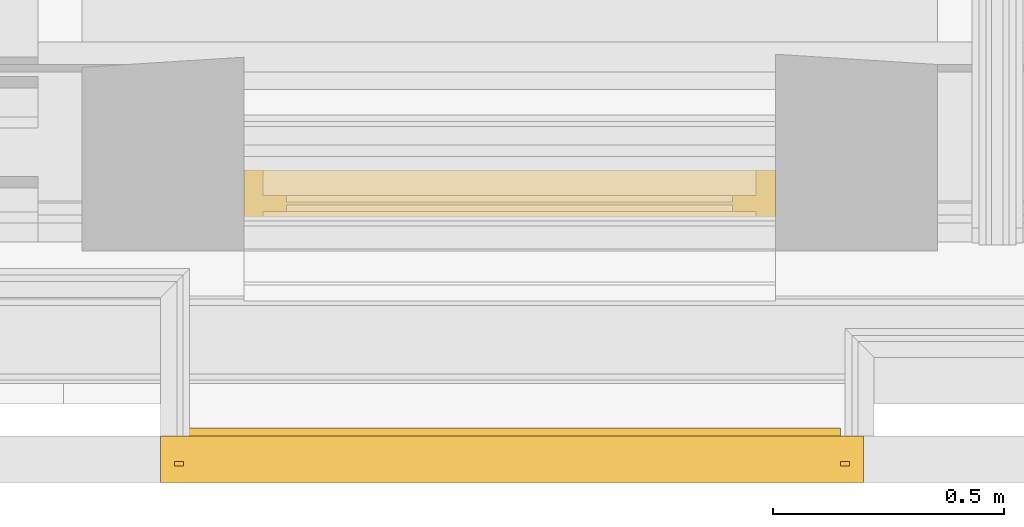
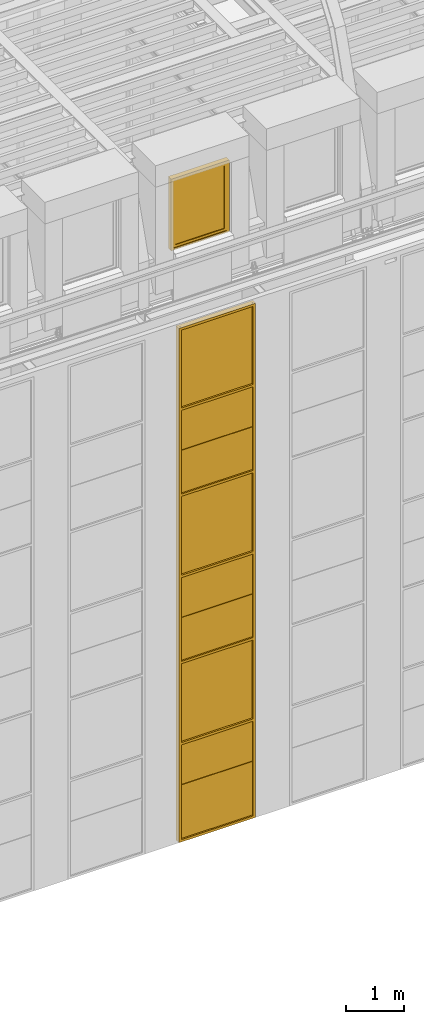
# One storey, part 114 of 183: 1 curtain wall, 1 window.
"""IFC2X3 building model written with IfcOpenShell, lengths in metres."""

from ifc_helpers import new_model, entity, si_unit, converted_unit, derived_unit, money_unit, direction, frame, origin_with_axes, place, context, subcontext, project, spatial, faceted_brep, material, type_object, element, save


model = new_model("IFC2X3")

# Units and contexts
model_context = context("Model", 3, precision=1e-05, world=origin_with_axes(), true_north=direction((0.0, 1.0)))
body_context = subcontext(model_context, "Body", "Model", "MODEL_VIEW", scale=1.0)
ifc_project = project(units=[si_unit("LENGTHUNIT", "METRE"), si_unit("AREAUNIT", "SQUARE_METRE"), si_unit("VOLUMEUNIT", "CUBIC_METRE"), si_unit("ABSORBEDDOSEUNIT", "GRAY"), si_unit("AMOUNTOFSUBSTANCEUNIT", "MOLE"), si_unit("DOSEEQUIVALENTUNIT", "SIEVERT"), si_unit("ELECTRICCAPACITANCEUNIT", "FARAD"), si_unit("ELECTRICCHARGEUNIT", "COULOMB"), si_unit("ELECTRICCONDUCTANCEUNIT", "SIEMENS"), si_unit("ELECTRICCURRENTUNIT", "AMPERE"), si_unit("ELECTRICRESISTANCEUNIT", "OHM"), si_unit("ELECTRICVOLTAGEUNIT", "VOLT"), si_unit("ENERGYUNIT", "JOULE"), si_unit("FORCEUNIT", "NEWTON"), si_unit("FREQUENCYUNIT", "HERTZ"), si_unit("ILLUMINANCEUNIT", "LUX"), si_unit("INDUCTANCEUNIT", "HENRY"), si_unit("LUMINOUSFLUXUNIT", "LUMEN"), si_unit("LUMINOUSINTENSITYUNIT", "CANDELA"), si_unit("MAGNETICFLUXDENSITYUNIT", "TESLA"), si_unit("MAGNETICFLUXUNIT", "WEBER"), si_unit("MASSUNIT", "GRAM"), converted_unit("PLANEANGLEUNIT", "degree", entity("IfcReal", 0.0174532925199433), si_unit("PLANEANGLEUNIT", "RADIAN"), dimensions=[0, 0, 0, 0, 0, 0, 0]), si_unit("POWERUNIT", "WATT"), si_unit("PRESSUREUNIT", "PASCAL"), si_unit("RADIOACTIVITYUNIT", "BECQUEREL"), si_unit("SOLIDANGLEUNIT", "STERADIAN"), si_unit("THERMODYNAMICTEMPERATUREUNIT", "KELVIN"), si_unit("TIMEUNIT", "SECOND"), derived_unit("ACCELERATIONUNIT", [(si_unit("LENGTHUNIT", "METRE"), 1), (si_unit("TIMEUNIT", "SECOND"), -2)]), derived_unit("ANGULARVELOCITYUNIT", [(converted_unit("PLANEANGLEUNIT", "degree", entity("IfcReal", 0.0174532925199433), si_unit("PLANEANGLEUNIT", "RADIAN"), dimensions=[0, 0, 0, 0, 0, 0, 0]), 1), (si_unit("TIMEUNIT", "SECOND"), -1)]), derived_unit("CURVATUREUNIT", [(converted_unit("PLANEANGLEUNIT", "degree", entity("IfcReal", 0.0174532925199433), si_unit("PLANEANGLEUNIT", "RADIAN"), dimensions=[0, 0, 0, 0, 0, 0, 0]), 1), (si_unit("LENGTHUNIT", "METRE"), -1)]), derived_unit("DYNAMICVISCOSITYUNIT", [(si_unit("PRESSUREUNIT", "PASCAL"), 1), (si_unit("TIMEUNIT", "SECOND"), 1)]), derived_unit("HEATFLUXDENSITYUNIT", [(si_unit("POWERUNIT", "WATT"), 1), (si_unit("LENGTHUNIT", "METRE"), -2)]), derived_unit("HEATINGVALUEUNIT", [(si_unit("ENERGYUNIT", "JOULE"), 1), (si_unit("MASSUNIT", "GRAM"), -1)]), derived_unit("INTEGERCOUNTRATEUNIT", [(si_unit("TIMEUNIT", "SECOND"), -1)]), derived_unit("IONCONCENTRATIONUNIT", [(si_unit("MASSUNIT", "GRAM"), 1), (si_unit("VOLUMEUNIT", "CUBIC_METRE"), -1)]), derived_unit("ISOTHERMALMOISTURECAPACITYUNIT", [(si_unit("VOLUMEUNIT", "CUBIC_METRE"), 1), (si_unit("MASSUNIT", "GRAM"), -1)]), derived_unit("KINEMATICVISCOSITYUNIT", [(si_unit("AREAUNIT", "SQUARE_METRE"), 1), (si_unit("TIMEUNIT", "SECOND"), -1)]), derived_unit("LINEARFORCEUNIT", [(si_unit("FORCEUNIT", "NEWTON"), 1), (si_unit("LENGTHUNIT", "METRE"), -1)]), derived_unit("LINEARMOMENTUNIT", [(si_unit("FORCEUNIT", "NEWTON"), 1), (si_unit("LENGTHUNIT", "METRE"), -1)]), derived_unit("LINEARSTIFFNESSUNIT", [(si_unit("FORCEUNIT", "NEWTON"), 1), (si_unit("LENGTHUNIT", "METRE"), -1)]), derived_unit("LINEARVELOCITYUNIT", [(si_unit("LENGTHUNIT", "METRE"), 1), (si_unit("TIMEUNIT", "SECOND"), -1)]), derived_unit("LUMINOUSINTENSITYDISTRIBUTIONUNIT", [(si_unit("LUMINOUSINTENSITYUNIT", "CANDELA"), 1), (si_unit("LUMINOUSFLUXUNIT", "LUMEN"), -1)]), derived_unit("MASSDENSITYUNIT", [(si_unit("MASSUNIT", "GRAM"), 1), (si_unit("VOLUMEUNIT", "CUBIC_METRE"), -1)]), derived_unit("MASSFLOWRATEUNIT", [(si_unit("MASSUNIT", "GRAM"), 1), (si_unit("TIMEUNIT", "SECOND"), -1)]), derived_unit("MASSPERLENGTHUNIT", [(si_unit("MASSUNIT", "GRAM"), 1), (si_unit("LENGTHUNIT", "METRE"), -1)]), derived_unit("MODULUSOFELASTICITYUNIT", [(si_unit("FORCEUNIT", "NEWTON"), 1), (si_unit("AREAUNIT", "SQUARE_METRE"), -1)]), derived_unit("MODULUSOFLINEARSUBGRADEREACTIONUNIT", [(si_unit("FORCEUNIT", "NEWTON"), 1), (si_unit("LENGTHUNIT", "METRE"), -2)]), derived_unit("MODULUSOFROTATIONALSUBGRADEREACTIONUNIT", [(si_unit("FORCEUNIT", "NEWTON"), 1), (si_unit("LENGTHUNIT", "METRE"), 1)]), derived_unit("MODULUSOFSUBGRADEREACTIONUNIT", [(si_unit("FORCEUNIT", "NEWTON"), 1), (si_unit("VOLUMEUNIT", "CUBIC_METRE"), -1)]), derived_unit("MOISTUREDIFFUSIVITYUNIT", [(si_unit("VOLUMEUNIT", "CUBIC_METRE"), 1), (si_unit("TIMEUNIT", "SECOND"), -1)]), derived_unit("MOLECULARWEIGHTUNIT", [(si_unit("MASSUNIT", "GRAM"), 1), (si_unit("AMOUNTOFSUBSTANCEUNIT", "MOLE"), -1)]), derived_unit("PLANARFORCEUNIT", [(si_unit("FORCEUNIT", "NEWTON"), 1), (si_unit("LENGTHUNIT", "METRE"), -2)]), derived_unit("ROTATIONALFREQUENCYUNIT", [(si_unit("TIMEUNIT", "SECOND"), -1)]), derived_unit("ROTATIONALMASSUNIT", [(si_unit("MASSUNIT", "GRAM"), 1), (si_unit("LENGTHUNIT", "METRE"), 2)]), derived_unit("ROTATIONALSTIFFNESSUNIT", [(si_unit("FORCEUNIT", "NEWTON"), 1), (si_unit("LENGTHUNIT", "METRE"), 1), (converted_unit("PLANEANGLEUNIT", "degree", entity("IfcReal", 0.0174532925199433), si_unit("PLANEANGLEUNIT", "RADIAN"), dimensions=[0, 0, 0, 0, 0, 0, 0]), -1)]), derived_unit("SECTIONAREAINTEGRALUNIT", [(si_unit("LENGTHUNIT", "METRE"), 5)]), derived_unit("SECTIONMODULUSUNIT", [(si_unit("LENGTHUNIT", "METRE"), 3)]), derived_unit("SHEARMODULUSUNIT", [(si_unit("FORCEUNIT", "NEWTON"), 1), (si_unit("AREAUNIT", "SQUARE_METRE"), -1)]), derived_unit("SOUNDPOWERUNIT", [(si_unit("ENERGYUNIT", "JOULE"), 1), (si_unit("TIMEUNIT", "SECOND"), -1)]), derived_unit("SPECIFICHEATCAPACITYUNIT", [(si_unit("FORCEUNIT", "NEWTON"), 1), (si_unit("MASSUNIT", "GRAM"), -1), (si_unit("THERMODYNAMICTEMPERATUREUNIT", "KELVIN"), -1)]), derived_unit("TEMPERATUREGRADIENTUNIT", [(si_unit("THERMODYNAMICTEMPERATUREUNIT", "KELVIN"), 1), (si_unit("LENGTHUNIT", "METRE"), -1)]), derived_unit("THERMALADMITTANCEUNIT", [(si_unit("POWERUNIT", "WATT"), 1), (si_unit("AREAUNIT", "SQUARE_METRE"), -1), (si_unit("THERMODYNAMICTEMPERATUREUNIT", "KELVIN"), -1)]), derived_unit("THERMALCONDUCTANCEUNIT", [(si_unit("POWERUNIT", "WATT"), 1), (si_unit("LENGTHUNIT", "METRE"), -1), (si_unit("THERMODYNAMICTEMPERATUREUNIT", "KELVIN"), -1)]), derived_unit("THERMALEXPANSIONCOEFFICIENTUNIT", [(si_unit("THERMODYNAMICTEMPERATUREUNIT", "KELVIN"), -1)]), derived_unit("THERMALRESISTANCEUNIT", [(si_unit("AREAUNIT", "SQUARE_METRE"), 1), (si_unit("POWERUNIT", "WATT"), -1)]), derived_unit("THERMALTRANSMITTANCEUNIT", [(si_unit("POWERUNIT", "WATT"), 1), (si_unit("AREAUNIT", "SQUARE_METRE"), -1), (si_unit("THERMODYNAMICTEMPERATUREUNIT", "KELVIN"), -1)]), derived_unit("TORQUEUNIT", [(si_unit("FORCEUNIT", "NEWTON"), 1), (si_unit("LENGTHUNIT", "METRE"), 1)]), derived_unit("VAPORPERMEABILITYUNIT", [(si_unit("MASSUNIT", "GRAM"), 1), (si_unit("TIMEUNIT", "SECOND"), -1)]), derived_unit("VOLUMETRICFLOWRATEUNIT", [(si_unit("VOLUMEUNIT", "CUBIC_METRE"), 1), (si_unit("TIMEUNIT", "SECOND"), -1)]), derived_unit("WARPINGCONSTANTUNIT", [(si_unit("LENGTHUNIT", "METRE"), 6)]), derived_unit("WARPINGMOMENTUNIT", [(si_unit("FORCEUNIT", "NEWTON"), 1), (si_unit("LENGTHUNIT", "METRE"), 2)]), money_unit("GBP")], contexts=[model_context])

# Site, building, storey
site_placement = place(None, origin_with_axes())
site = spatial("IfcSite", under=ifc_project, at=site_placement, Name="Site", CompositionType="ELEMENT")
building_placement = place(site_placement, origin_with_axes())
building = spatial("IfcBuilding", under=site, at=building_placement, Name="Building01", CompositionType="ELEMENT")
storey_placement = place(building_placement, frame((0.0, 0.0, 5.15), z_axis=(0.0, 0.0, 1.0), x_axis=(1.0, 0.0, 0.0)))
storey = spatial("IfcBuildingStorey", under=building, at=storey_placement, Name="1F", CompositionType="ELEMENT", Elevation=5.15)

# Curtain wall
ifc_material_1 = material(Name="A-CurtainWall_Frame")
curtain_wall_type = type_object("IfcCurtainWallType", Name="Pattern - Maximum Spacing", PredefinedType="NOTDEFINED")
curtain_wall_placement = place(storey_placement, frame((0.0, 0.0, -5.15), z_axis=(0.0, 0.0, 1.0), x_axis=(1.0, 0.0, 0.0)))
element("IfcCurtainWall", 1, at=curtain_wall_placement, inside=storey, type_object=curtain_wall_type, material=ifc_material_1, Name="20", ObjectType="Pattern - Maximum Spacing", context=body_context, shape_type="Brep", body=[
    faceted_brep([(9.49, 0.05, 4.0), (9.49, 0.03, 4.0), (9.49, 0.03, 5.118945), (9.49, 0.05, 5.118945), (10.95, 0.05, 4.0), (10.95, 0.03, 4.0), (10.95, 0.05, 5.118945), (10.95, 0.03, 5.118945)], [[[0, 1, 2, 3]], [[4, 5, 1, 0]], [[6, 7, 5, 4]], [[3, 2, 7, 6]], [[1, 5, 7, 2]], [[3, 6, 4, 0]]]),
    faceted_brep([(9.51, 0.045, 3.97), (9.49, 0.045, 3.97), (9.49, 0.035, 3.97), (9.51, 0.035, 3.97), (9.51, 0.0, 3.97), (9.46, 0.0, 3.97), (9.46, 0.1, 3.97), (9.51, 0.1, 3.97), (9.51, 0.1, 5.123945), (9.51, 0.045, 5.123945), (9.49, 0.045, 5.123945), (9.49, 0.035, 5.123945), (9.51, 0.035, 5.123945), (9.51, 0.0, 5.123945), (9.46, 0.0, 5.123945), (9.46, 0.1, 5.123945)], [[[0, 1, 2, 3, 4, 5, 6, 7]], [[7, 8, 9, 0]], [[0, 9, 10, 1]], [[1, 10, 11, 2]], [[2, 11, 12, 3]], [[3, 12, 13, 4]], [[4, 13, 14, 5]], [[5, 14, 15, 6]], [[6, 15, 8, 7]]]),
    faceted_brep([(10.93, 0.045, 4.0), (10.93, 0.035, 4.0), (10.93, 0.035, 4.02), (10.93, 0.0, 4.02), (10.93, 0.0, 3.97), (10.93, 0.1, 3.97), (10.93, 0.1, 4.02), (10.93, 0.045, 4.02), (9.51, 0.045, 4.02), (9.51, 0.045, 4.0), (9.51, 0.035, 4.0), (9.51, 0.035, 4.02), (9.51, 0.0, 4.02), (9.51, 0.0, 3.97), (9.51, 0.1, 3.97), (9.51, 0.1, 4.02)], [[[0, 1, 2, 3, 4, 5, 6, 7]], [[7, 8, 9, 0]], [[0, 9, 10, 1]], [[1, 10, 11, 2]], [[2, 11, 12, 3]], [[3, 12, 13, 4]], [[4, 13, 14, 5]], [[5, 14, 15, 6]], [[6, 15, 8, 7]], [[8, 15, 14, 13, 12, 11, 10, 9]]]),
    faceted_brep([(10.93, 0.045, 3.97), (10.93, 0.045, 5.123945), (10.93, 0.1, 5.123945), (10.93, 0.1, 3.97), (10.95, 0.045, 3.97), (10.95, 0.045, 5.123945), (10.95, 0.035, 3.97), (10.95, 0.035, 5.123945), (10.93, 0.035, 3.97), (10.93, 0.035, 5.123945), (10.93, 0.0, 3.97), (10.93, 0.0, 5.123945), (10.98, 0.0, 3.97), (10.98, 0.0, 5.123945), (10.98, 0.1, 3.97), (10.98, 0.1, 5.123945)], [[[0, 1, 2, 3]], [[4, 5, 1, 0]], [[6, 7, 5, 4]], [[8, 9, 7, 6]], [[10, 11, 9, 8]], [[12, 13, 11, 10]], [[14, 15, 13, 12]], [[3, 2, 15, 14]], [[14, 12, 10, 8, 6, 4, 0, 3]]]),
    faceted_brep([(9.51, 0.0625, 5.118945), (9.51, 0.0525, 5.118945), (9.51, 0.0525, 5.098945), (9.51, 0.0175, 5.098945), (9.51, 0.0175, 5.148945), (9.51, 0.0525, 5.148945), (9.51, 0.0525, 5.128945), (9.51, 0.0625, 5.128945), (9.51, 0.0625, 5.148945), (9.51, 0.1175, 5.148945), (9.51, 0.1175, 5.098945), (9.51, 0.0625, 5.098945), (10.93, 0.0625, 5.098945), (10.93, 0.0625, 5.118945), (10.93, 0.0525, 5.118945), (10.93, 0.0525, 5.098945), (10.93, 0.0175, 5.098945), (10.93, 0.0175, 5.148945), (10.93, 0.0525, 5.148945), (10.93, 0.0625, 5.128945), (10.93, 0.0625, 5.148945), (10.93, 0.0525, 5.128945), (10.93, 0.1175, 5.098945), (10.93, 0.1175, 5.148945)], [[[0, 1, 2, 3, 4, 5, 6, 7, 8, 9, 10, 11]], [[11, 12, 13, 0]], [[0, 13, 14, 1]], [[1, 14, 15, 2]], [[2, 15, 16, 3]], [[3, 16, 17, 4]], [[4, 17, 18, 5]], [[7, 19, 20, 8]], [[6, 21, 19, 7]], [[5, 18, 21, 6]], [[10, 22, 12, 11]], [[9, 23, 22, 10]], [[8, 20, 23, 9]], [[20, 19, 21, 18, 17, 16, 15, 14, 13, 12, 22, 23]]]),
    faceted_brep([(9.49, 0.05, 5.128945), (9.49, 0.03, 5.128945), (9.49, 0.03, 6.018105), (9.49, 0.05, 6.018105), (10.95, 0.05, 5.128945), (10.95, 0.03, 5.128945), (10.95, 0.05, 6.018105), (10.95, 0.03, 6.018105)], [[[0, 1, 2, 3]], [[4, 5, 1, 0]], [[6, 7, 5, 4]], [[3, 2, 7, 6]], [[1, 5, 7, 2]], [[3, 6, 4, 0]]]),
    faceted_brep([(9.46, 0.1, 6.023105), (9.46, 0.1, 5.123945), (9.46, 0.0, 5.123945), (9.46, 0.0, 6.023105), (9.51, 0.1, 6.023105), (9.51, 0.1, 5.123945), (9.51, 0.045, 6.023105), (9.51, 0.045, 5.123945), (9.49, 0.045, 6.023105), (9.49, 0.045, 5.123945), (9.49, 0.035, 6.023105), (9.49, 0.035, 5.123945), (9.51, 0.035, 6.023105), (9.51, 0.035, 5.123945), (9.51, 0.0, 6.023105), (9.51, 0.0, 5.123945)], [[[0, 1, 2, 3]], [[4, 5, 1, 0]], [[6, 7, 5, 4]], [[8, 9, 7, 6]], [[10, 11, 9, 8]], [[12, 13, 11, 10]], [[14, 15, 13, 12]], [[3, 2, 15, 14]]]),
    faceted_brep([(10.93, 0.045, 5.123945), (10.93, 0.045, 6.023105), (10.93, 0.1, 6.023105), (10.93, 0.1, 5.123945), (10.95, 0.045, 5.123945), (10.95, 0.045, 6.023105), (10.95, 0.035, 5.123945), (10.95, 0.035, 6.023105), (10.93, 0.035, 5.123945), (10.93, 0.035, 6.023105), (10.93, 0.0, 5.123945), (10.93, 0.0, 6.023105), (10.98, 0.0, 5.123945), (10.98, 0.0, 6.023105), (10.98, 0.1, 5.123945), (10.98, 0.1, 6.023105)], [[[0, 1, 2, 3]], [[4, 5, 1, 0]], [[6, 7, 5, 4]], [[8, 9, 7, 6]], [[10, 11, 9, 8]], [[12, 13, 11, 10]], [[14, 15, 13, 12]], [[3, 2, 15, 14]]]),
    faceted_brep([(9.51, 0.045, 6.018105), (9.51, 0.035, 6.018105), (9.51, 0.035, 5.998105), (9.51, 0.0, 5.998105), (9.51, 0.0, 6.048105), (9.51, 0.035, 6.048105), (9.51, 0.035, 6.028105), (9.51, 0.045, 6.028105), (9.51, 0.045, 6.048105), (9.51, 0.1, 6.048105), (9.51, 0.1, 5.998105), (9.51, 0.045, 5.998105), (10.93, 0.045, 5.998105), (10.93, 0.045, 6.018105), (10.93, 0.035, 6.018105), (10.93, 0.035, 5.998105), (10.93, 0.0, 5.998105), (10.93, 0.0, 6.048105), (10.93, 0.035, 6.048105), (10.93, 0.045, 6.028105), (10.93, 0.045, 6.048105), (10.93, 0.035, 6.028105), (10.93, 0.1, 5.998105), (10.93, 0.1, 6.048105)], [[[0, 1, 2, 3, 4, 5, 6, 7, 8, 9, 10, 11]], [[11, 12, 13, 0]], [[0, 13, 14, 1]], [[1, 14, 15, 2]], [[2, 15, 16, 3]], [[3, 16, 17, 4]], [[4, 17, 18, 5]], [[7, 19, 20, 8]], [[6, 21, 19, 7]], [[5, 18, 21, 6]], [[10, 22, 12, 11]], [[9, 23, 22, 10]], [[8, 20, 23, 9]], [[20, 19, 21, 18, 17, 16, 15, 14, 13, 12, 22, 23]]]),
    faceted_brep([(9.49, 0.045, 6.028105), (9.49, 0.035, 6.028105), (9.49, 0.035, 7.716517), (9.49, 0.045, 7.716517), (10.95, 0.045, 6.028105), (10.95, 0.035, 6.028105), (10.95, 0.045, 7.716517), (10.95, 0.035, 7.716517)], [[[0, 1, 2, 3]], [[4, 5, 1, 0]], [[6, 7, 5, 4]], [[3, 2, 7, 6]], [[1, 5, 7, 2]], [[3, 6, 4, 0]]]),
    faceted_brep([(9.46, 0.1, 7.721517), (9.46, 0.1, 6.023105), (9.46, 0.0, 6.023105), (9.46, 0.0, 7.721517), (9.51, 0.1, 7.721517), (9.51, 0.1, 6.023105), (9.51, 0.045, 7.721517), (9.51, 0.045, 6.023105), (9.49, 0.045, 7.721517), (9.49, 0.045, 6.023105), (9.49, 0.035, 7.721517), (9.49, 0.035, 6.023105), (9.51, 0.035, 7.721517), (9.51, 0.035, 6.023105), (9.51, 0.0, 7.721517), (9.51, 0.0, 6.023105)], [[[0, 1, 2, 3]], [[4, 5, 1, 0]], [[6, 7, 5, 4]], [[8, 9, 7, 6]], [[10, 11, 9, 8]], [[12, 13, 11, 10]], [[14, 15, 13, 12]], [[3, 2, 15, 14]]]),
    faceted_brep([(10.93, 0.045, 6.023105), (10.93, 0.045, 7.721517), (10.93, 0.1, 7.721517), (10.93, 0.1, 6.023105), (10.95, 0.045, 6.023105), (10.95, 0.045, 7.721517), (10.95, 0.035, 6.023105), (10.95, 0.035, 7.721517), (10.93, 0.035, 6.023105), (10.93, 0.035, 7.721517), (10.93, 0.0, 6.023105), (10.93, 0.0, 7.721517), (10.98, 0.0, 6.023105), (10.98, 0.0, 7.721517), (10.98, 0.1, 6.023105), (10.98, 0.1, 7.721517)], [[[0, 1, 2, 3]], [[4, 5, 1, 0]], [[6, 7, 5, 4]], [[8, 9, 7, 6]], [[10, 11, 9, 8]], [[12, 13, 11, 10]], [[14, 15, 13, 12]], [[3, 2, 15, 14]]]),
    faceted_brep([(9.51, 0.045, 7.716517), (9.51, 0.035, 7.716517), (9.51, 0.035, 7.696517), (9.51, 0.0, 7.696517), (9.51, 0.0, 7.746517), (9.51, 0.035, 7.746517), (9.51, 0.035, 7.726517), (9.51, 0.045, 7.726517), (9.51, 0.045, 7.746517), (9.51, 0.1, 7.746517), (9.51, 0.1, 7.696517), (9.51, 0.045, 7.696517), (10.93, 0.045, 7.696517), (10.93, 0.045, 7.716517), (10.93, 0.035, 7.716517), (10.93, 0.035, 7.696517), (10.93, 0.0, 7.696517), (10.93, 0.0, 7.746517), (10.93, 0.035, 7.746517), (10.93, 0.045, 7.726517), (10.93, 0.045, 7.746517), (10.93, 0.035, 7.726517), (10.93, 0.1, 7.696517), (10.93, 0.1, 7.746517)], [[[0, 1, 2, 3, 4, 5, 6, 7, 8, 9, 10, 11]], [[11, 12, 13, 0]], [[0, 13, 14, 1]], [[1, 14, 15, 2]], [[2, 15, 16, 3]], [[3, 16, 17, 4]], [[4, 17, 18, 5]], [[7, 19, 20, 8]], [[6, 21, 19, 7]], [[5, 18, 21, 6]], [[10, 22, 12, 11]], [[9, 23, 22, 10]], [[8, 20, 23, 9]], [[20, 19, 21, 18, 17, 16, 15, 14, 13, 12, 22, 23]]]),
    faceted_brep([(9.49, 0.05, 7.726517), (9.49, 0.03, 7.726517), (9.49, 0.03, 8.615677), (9.49, 0.05, 8.615677), (10.95, 0.05, 7.726517), (10.95, 0.03, 7.726517), (10.95, 0.05, 8.615677), (10.95, 0.03, 8.615677)], [[[0, 1, 2, 3]], [[4, 5, 1, 0]], [[6, 7, 5, 4]], [[3, 2, 7, 6]], [[1, 5, 7, 2]], [[3, 6, 4, 0]]]),
    faceted_brep([(9.46, 0.1, 8.620677), (9.46, 0.1, 7.721517), (9.46, 0.0, 7.721517), (9.46, 0.0, 8.620677), (9.51, 0.1, 8.620677), (9.51, 0.1, 7.721517), (9.51, 0.045, 8.620677), (9.51, 0.045, 7.721517), (9.49, 0.045, 8.620677), (9.49, 0.045, 7.721517), (9.49, 0.035, 8.620677), (9.49, 0.035, 7.721517), (9.51, 0.035, 8.620677), (9.51, 0.035, 7.721517), (9.51, 0.0, 8.620677), (9.51, 0.0, 7.721517)], [[[0, 1, 2, 3]], [[4, 5, 1, 0]], [[6, 7, 5, 4]], [[8, 9, 7, 6]], [[10, 11, 9, 8]], [[12, 13, 11, 10]], [[14, 15, 13, 12]], [[3, 2, 15, 14]]]),
    faceted_brep([(10.93, 0.045, 7.721517), (10.93, 0.045, 8.620677), (10.93, 0.1, 8.620677), (10.93, 0.1, 7.721517), (10.95, 0.045, 7.721517), (10.95, 0.045, 8.620677), (10.95, 0.035, 7.721517), (10.95, 0.035, 8.620677), (10.93, 0.035, 7.721517), (10.93, 0.035, 8.620677), (10.93, 0.0, 7.721517), (10.93, 0.0, 8.620677), (10.98, 0.0, 7.721517), (10.98, 0.0, 8.620677), (10.98, 0.1, 7.721517), (10.98, 0.1, 8.620677)], [[[0, 1, 2, 3]], [[4, 5, 1, 0]], [[6, 7, 5, 4]], [[8, 9, 7, 6]], [[10, 11, 9, 8]], [[12, 13, 11, 10]], [[14, 15, 13, 12]], [[3, 2, 15, 14]]]),
    faceted_brep([(9.51, 0.0625, 8.615677), (9.51, 0.0525, 8.615677), (9.51, 0.0525, 8.595677), (9.51, 0.0175, 8.595677), (9.51, 0.0175, 8.645677), (9.51, 0.0525, 8.645677), (9.51, 0.0525, 8.625677), (9.51, 0.0625, 8.625677), (9.51, 0.0625, 8.645677), (9.51, 0.1175, 8.645677), (9.51, 0.1175, 8.595677), (9.51, 0.0625, 8.595677), (10.93, 0.0625, 8.595677), (10.93, 0.0625, 8.615677), (10.93, 0.0525, 8.615677), (10.93, 0.0525, 8.595677), (10.93, 0.0175, 8.595677), (10.93, 0.0175, 8.645677), (10.93, 0.0525, 8.645677), (10.93, 0.0625, 8.625677), (10.93, 0.0625, 8.645677), (10.93, 0.0525, 8.625677), (10.93, 0.1175, 8.595677), (10.93, 0.1175, 8.645677)], [[[0, 1, 2, 3, 4, 5, 6, 7, 8, 9, 10, 11]], [[11, 12, 13, 0]], [[0, 13, 14, 1]], [[1, 14, 15, 2]], [[2, 15, 16, 3]], [[3, 16, 17, 4]], [[4, 17, 18, 5]], [[7, 19, 20, 8]], [[6, 21, 19, 7]], [[5, 18, 21, 6]], [[10, 22, 12, 11]], [[9, 23, 22, 10]], [[8, 20, 23, 9]], [[20, 19, 21, 18, 17, 16, 15, 14, 13, 12, 22, 23]]]),
    faceted_brep([(9.49, 0.05, 8.625677), (9.49, 0.03, 8.625677), (9.49, 0.03, 9.514837), (9.49, 0.05, 9.514837), (10.95, 0.05, 8.625677), (10.95, 0.03, 8.625677), (10.95, 0.05, 9.514837), (10.95, 0.03, 9.514837)], [[[0, 1, 2, 3]], [[4, 5, 1, 0]], [[6, 7, 5, 4]], [[3, 2, 7, 6]], [[1, 5, 7, 2]], [[3, 6, 4, 0]]]),
    faceted_brep([(9.46, 0.1, 9.519837), (9.46, 0.1, 8.620677), (9.46, 0.0, 8.620677), (9.46, 0.0, 9.519837), (9.51, 0.1, 9.519837), (9.51, 0.1, 8.620677), (9.51, 0.045, 9.519837), (9.51, 0.045, 8.620677), (9.49, 0.045, 9.519837), (9.49, 0.045, 8.620677), (9.49, 0.035, 9.519837), (9.49, 0.035, 8.620677), (9.51, 0.035, 9.519837), (9.51, 0.035, 8.620677), (9.51, 0.0, 9.519837), (9.51, 0.0, 8.620677)], [[[0, 1, 2, 3]], [[4, 5, 1, 0]], [[6, 7, 5, 4]], [[8, 9, 7, 6]], [[10, 11, 9, 8]], [[12, 13, 11, 10]], [[14, 15, 13, 12]], [[3, 2, 15, 14]]]),
    faceted_brep([(10.93, 0.045, 8.620677), (10.93, 0.045, 9.519837), (10.93, 0.1, 9.519837), (10.93, 0.1, 8.620677), (10.95, 0.045, 8.620677), (10.95, 0.045, 9.519837), (10.95, 0.035, 8.620677), (10.95, 0.035, 9.519837), (10.93, 0.035, 8.620677), (10.93, 0.035, 9.519837), (10.93, 0.0, 8.620677), (10.93, 0.0, 9.519837), (10.98, 0.0, 8.620677), (10.98, 0.0, 9.519837), (10.98, 0.1, 8.620677), (10.98, 0.1, 9.519837)], [[[0, 1, 2, 3]], [[4, 5, 1, 0]], [[6, 7, 5, 4]], [[8, 9, 7, 6]], [[10, 11, 9, 8]], [[12, 13, 11, 10]], [[14, 15, 13, 12]], [[3, 2, 15, 14]]]),
    faceted_brep([(9.51, 0.045, 9.514837), (9.51, 0.035, 9.514837), (9.51, 0.035, 9.494837), (9.51, 0.0, 9.494837), (9.51, 0.0, 9.544837), (9.51, 0.035, 9.544837), (9.51, 0.035, 9.524837), (9.51, 0.045, 9.524837), (9.51, 0.045, 9.544837), (9.51, 0.1, 9.544837), (9.51, 0.1, 9.494837), (9.51, 0.045, 9.494837), (10.93, 0.045, 9.494837), (10.93, 0.045, 9.514837), (10.93, 0.035, 9.514837), (10.93, 0.035, 9.494837), (10.93, 0.0, 9.494837), (10.93, 0.0, 9.544837), (10.93, 0.035, 9.544837), (10.93, 0.045, 9.524837), (10.93, 0.045, 9.544837), (10.93, 0.035, 9.524837), (10.93, 0.1, 9.494837), (10.93, 0.1, 9.544837)], [[[0, 1, 2, 3, 4, 5, 6, 7, 8, 9, 10, 11]], [[11, 12, 13, 0]], [[0, 13, 14, 1]], [[1, 14, 15, 2]], [[2, 15, 16, 3]], [[3, 16, 17, 4]], [[4, 17, 18, 5]], [[7, 19, 20, 8]], [[6, 21, 19, 7]], [[5, 18, 21, 6]], [[10, 22, 12, 11]], [[9, 23, 22, 10]], [[8, 20, 23, 9]], [[20, 19, 21, 18, 17, 16, 15, 14, 13, 12, 22, 23]]]),
    faceted_brep([(9.49, 0.045, 9.524837), (9.49, 0.035, 9.524837), (9.49, 0.035, 11.213249), (9.49, 0.045, 11.213249), (10.95, 0.045, 9.524837), (10.95, 0.035, 9.524837), (10.95, 0.045, 11.213249), (10.95, 0.035, 11.213249)], [[[0, 1, 2, 3]], [[4, 5, 1, 0]], [[6, 7, 5, 4]], [[3, 2, 7, 6]], [[1, 5, 7, 2]], [[3, 6, 4, 0]]]),
    faceted_brep([(9.46, 0.1, 11.218249), (9.46, 0.1, 9.519837), (9.46, 0.0, 9.519837), (9.46, 0.0, 11.218249), (9.51, 0.1, 11.218249), (9.51, 0.1, 9.519837), (9.51, 0.045, 11.218249), (9.51, 0.045, 9.519837), (9.49, 0.045, 11.218249), (9.49, 0.045, 9.519837), (9.49, 0.035, 11.218249), (9.49, 0.035, 9.519837), (9.51, 0.035, 11.218249), (9.51, 0.035, 9.519837), (9.51, 0.0, 11.218249), (9.51, 0.0, 9.519837)], [[[0, 1, 2, 3]], [[4, 5, 1, 0]], [[6, 7, 5, 4]], [[8, 9, 7, 6]], [[10, 11, 9, 8]], [[12, 13, 11, 10]], [[14, 15, 13, 12]], [[3, 2, 15, 14]]]),
    faceted_brep([(10.93, 0.045, 9.519837), (10.93, 0.045, 11.218249), (10.93, 0.1, 11.218249), (10.93, 0.1, 9.519837), (10.95, 0.045, 9.519837), (10.95, 0.045, 11.218249), (10.95, 0.035, 9.519837), (10.95, 0.035, 11.218249), (10.93, 0.035, 9.519837), (10.93, 0.035, 11.218249), (10.93, 0.0, 9.519837), (10.93, 0.0, 11.218249), (10.98, 0.0, 9.519837), (10.98, 0.0, 11.218249), (10.98, 0.1, 9.519837), (10.98, 0.1, 11.218249)], [[[0, 1, 2, 3]], [[4, 5, 1, 0]], [[6, 7, 5, 4]], [[8, 9, 7, 6]], [[10, 11, 9, 8]], [[12, 13, 11, 10]], [[14, 15, 13, 12]], [[3, 2, 15, 14]]]),
    faceted_brep([(9.51, 0.045, 11.213249), (9.51, 0.035, 11.213249), (9.51, 0.035, 11.193249), (9.51, 0.0, 11.193249), (9.51, 0.0, 11.243249), (9.51, 0.035, 11.243249), (9.51, 0.035, 11.223249), (9.51, 0.045, 11.223249), (9.51, 0.045, 11.243249), (9.51, 0.1, 11.243249), (9.51, 0.1, 11.193249), (9.51, 0.045, 11.193249), (10.93, 0.045, 11.193249), (10.93, 0.045, 11.213249), (10.93, 0.035, 11.213249), (10.93, 0.035, 11.193249), (10.93, 0.0, 11.193249), (10.93, 0.0, 11.243249), (10.93, 0.035, 11.243249), (10.93, 0.045, 11.223249), (10.93, 0.045, 11.243249), (10.93, 0.035, 11.223249), (10.93, 0.1, 11.193249), (10.93, 0.1, 11.243249)], [[[0, 1, 2, 3, 4, 5, 6, 7, 8, 9, 10, 11]], [[11, 12, 13, 0]], [[0, 13, 14, 1]], [[1, 14, 15, 2]], [[2, 15, 16, 3]], [[3, 16, 17, 4]], [[4, 17, 18, 5]], [[7, 19, 20, 8]], [[6, 21, 19, 7]], [[5, 18, 21, 6]], [[10, 22, 12, 11]], [[9, 23, 22, 10]], [[8, 20, 23, 9]], [[20, 19, 21, 18, 17, 16, 15, 14, 13, 12, 22, 23]]]),
    faceted_brep([(9.49, 0.05, 11.223249), (9.49, 0.03, 11.223249), (9.49, 0.03, 12.112409), (9.49, 0.05, 12.112409), (10.95, 0.05, 11.223249), (10.95, 0.03, 11.223249), (10.95, 0.05, 12.112409), (10.95, 0.03, 12.112409)], [[[0, 1, 2, 3]], [[4, 5, 1, 0]], [[6, 7, 5, 4]], [[3, 2, 7, 6]], [[1, 5, 7, 2]], [[3, 6, 4, 0]]]),
    faceted_brep([(9.46, 0.1, 12.117409), (9.46, 0.1, 11.218249), (9.46, 0.0, 11.218249), (9.46, 0.0, 12.117409), (9.51, 0.1, 12.117409), (9.51, 0.1, 11.218249), (9.51, 0.045, 12.117409), (9.51, 0.045, 11.218249), (9.49, 0.045, 12.117409), (9.49, 0.045, 11.218249), (9.49, 0.035, 12.117409), (9.49, 0.035, 11.218249), (9.51, 0.035, 12.117409), (9.51, 0.035, 11.218249), (9.51, 0.0, 12.117409), (9.51, 0.0, 11.218249)], [[[0, 1, 2, 3]], [[4, 5, 1, 0]], [[6, 7, 5, 4]], [[8, 9, 7, 6]], [[10, 11, 9, 8]], [[12, 13, 11, 10]], [[14, 15, 13, 12]], [[3, 2, 15, 14]]]),
    faceted_brep([(10.93, 0.045, 11.218249), (10.93, 0.045, 12.117409), (10.93, 0.1, 12.117409), (10.93, 0.1, 11.218249), (10.95, 0.045, 11.218249), (10.95, 0.045, 12.117409), (10.95, 0.035, 11.218249), (10.95, 0.035, 12.117409), (10.93, 0.035, 11.218249), (10.93, 0.035, 12.117409), (10.93, 0.0, 11.218249), (10.93, 0.0, 12.117409), (10.98, 0.0, 11.218249), (10.98, 0.0, 12.117409), (10.98, 0.1, 11.218249), (10.98, 0.1, 12.117409)], [[[0, 1, 2, 3]], [[4, 5, 1, 0]], [[6, 7, 5, 4]], [[8, 9, 7, 6]], [[10, 11, 9, 8]], [[12, 13, 11, 10]], [[14, 15, 13, 12]], [[3, 2, 15, 14]]]),
    faceted_brep([(9.51, 0.0625, 12.112409), (9.51, 0.0525, 12.112409), (9.51, 0.0525, 12.092409), (9.51, 0.0175, 12.092409), (9.51, 0.0175, 12.142409), (9.51, 0.0525, 12.142409), (9.51, 0.0525, 12.122409), (9.51, 0.0625, 12.122409), (9.51, 0.0625, 12.142409), (9.51, 0.1175, 12.142409), (9.51, 0.1175, 12.092409), (9.51, 0.0625, 12.092409), (10.93, 0.0625, 12.092409), (10.93, 0.0625, 12.112409), (10.93, 0.0525, 12.112409), (10.93, 0.0525, 12.092409), (10.93, 0.0175, 12.092409), (10.93, 0.0175, 12.142409), (10.93, 0.0525, 12.142409), (10.93, 0.0625, 12.122409), (10.93, 0.0625, 12.142409), (10.93, 0.0525, 12.122409), (10.93, 0.1175, 12.092409), (10.93, 0.1175, 12.142409)], [[[0, 1, 2, 3, 4, 5, 6, 7, 8, 9, 10, 11]], [[11, 12, 13, 0]], [[0, 13, 14, 1]], [[1, 14, 15, 2]], [[2, 15, 16, 3]], [[3, 16, 17, 4]], [[4, 17, 18, 5]], [[7, 19, 20, 8]], [[6, 21, 19, 7]], [[5, 18, 21, 6]], [[10, 22, 12, 11]], [[9, 23, 22, 10]], [[8, 20, 23, 9]], [[20, 19, 21, 18, 17, 16, 15, 14, 13, 12, 22, 23]]]),
    faceted_brep([(10.95, 0.045, 14.69), (10.95, 0.035, 14.69), (10.95, 0.035, 13.021569), (10.95, 0.045, 13.021569), (9.49, 0.045, 14.69), (9.49, 0.035, 14.69), (9.49, 0.045, 13.021569), (9.49, 0.035, 13.021569)], [[[0, 1, 2, 3]], [[4, 5, 1, 0]], [[6, 7, 5, 4]], [[3, 2, 7, 6]], [[1, 5, 7, 2]], [[3, 6, 4, 0]]]),
    faceted_brep([(10.93, 0.045, 14.72), (10.95, 0.045, 14.72), (10.95, 0.035, 14.72), (10.93, 0.035, 14.72), (10.93, 0.0, 14.72), (10.98, 0.0, 14.72), (10.98, 0.1, 14.72), (10.93, 0.1, 14.72), (10.93, 0.1, 13.016569), (10.93, 0.045, 13.016569), (10.95, 0.045, 13.016569), (10.95, 0.035, 13.016569), (10.93, 0.035, 13.016569), (10.93, 0.0, 13.016569), (10.98, 0.0, 13.016569), (10.98, 0.1, 13.016569)], [[[0, 1, 2, 3, 4, 5, 6, 7]], [[7, 8, 9, 0]], [[0, 9, 10, 1]], [[1, 10, 11, 2]], [[2, 11, 12, 3]], [[3, 12, 13, 4]], [[4, 13, 14, 5]], [[5, 14, 15, 6]], [[6, 15, 8, 7]]]),
    faceted_brep([(9.51, 0.1, 14.67), (9.51, 0.045, 14.67), (9.51, 0.045, 14.69), (9.51, 0.035, 14.69), (9.51, 0.035, 14.67), (9.51, 0.0, 14.67), (9.51, 0.0, 14.72), (9.51, 0.1, 14.72), (10.93, 0.1, 14.72), (10.93, 0.1, 14.67), (10.93, 0.045, 14.67), (10.93, 0.045, 14.69), (10.93, 0.035, 14.69), (10.93, 0.035, 14.67), (10.93, 0.0, 14.67), (10.93, 0.0, 14.72)], [[[0, 1, 2, 3, 4, 5, 6, 7]], [[7, 8, 9, 0]], [[0, 9, 10, 1]], [[1, 10, 11, 2]], [[2, 11, 12, 3]], [[3, 12, 13, 4]], [[4, 13, 14, 5]], [[5, 14, 15, 6]], [[6, 15, 8, 7]], [[8, 15, 14, 13, 12, 11, 10, 9]]]),
    faceted_brep([(9.51, 0.045, 14.72), (9.51, 0.045, 13.016569), (9.51, 0.1, 13.016569), (9.51, 0.1, 14.72), (9.49, 0.045, 14.72), (9.49, 0.045, 13.016569), (9.49, 0.035, 14.72), (9.49, 0.035, 13.016569), (9.51, 0.035, 14.72), (9.51, 0.035, 13.016569), (9.51, 0.0, 14.72), (9.51, 0.0, 13.016569), (9.46, 0.0, 14.72), (9.46, 0.0, 13.016569), (9.46, 0.1, 14.72), (9.46, 0.1, 13.016569)], [[[0, 1, 2, 3]], [[4, 5, 1, 0]], [[6, 7, 5, 4]], [[8, 9, 7, 6]], [[10, 11, 9, 8]], [[12, 13, 11, 10]], [[14, 15, 13, 12]], [[3, 2, 15, 14]], [[14, 12, 10, 8, 6, 4, 0, 3]]]),
    faceted_brep([(10.93, 0.035, 13.011569), (10.93, 0.045, 13.011569), (10.93, 0.045, 12.991569), (10.93, 0.1, 12.991569), (10.93, 0.1, 13.041569), (10.93, 0.045, 13.041569), (10.93, 0.045, 13.021569), (10.93, 0.035, 13.021569), (10.93, 0.035, 13.041569), (10.93, 0.0, 13.041569), (10.93, 0.0, 12.991569), (10.93, 0.035, 12.991569), (9.51, 0.035, 12.991569), (9.51, 0.035, 13.011569), (9.51, 0.045, 13.011569), (9.51, 0.045, 12.991569), (9.51, 0.1, 12.991569), (9.51, 0.1, 13.041569), (9.51, 0.045, 13.041569), (9.51, 0.035, 13.021569), (9.51, 0.035, 13.041569), (9.51, 0.045, 13.021569), (9.51, 0.0, 12.991569), (9.51, 0.0, 13.041569)], [[[0, 1, 2, 3, 4, 5, 6, 7, 8, 9, 10, 11]], [[11, 12, 13, 0]], [[0, 13, 14, 1]], [[1, 14, 15, 2]], [[2, 15, 16, 3]], [[3, 16, 17, 4]], [[4, 17, 18, 5]], [[7, 19, 20, 8]], [[6, 21, 19, 7]], [[5, 18, 21, 6]], [[10, 22, 12, 11]], [[9, 23, 22, 10]], [[8, 20, 23, 9]], [[20, 19, 21, 18, 17, 16, 15, 14, 13, 12, 22, 23]]]),
    faceted_brep([(9.49, 0.05, 12.122409), (9.49, 0.03, 12.122409), (9.49, 0.03, 13.011569), (9.49, 0.05, 13.011569), (10.95, 0.05, 12.122409), (10.95, 0.03, 12.122409), (10.95, 0.05, 13.011569), (10.95, 0.03, 13.011569)], [[[0, 1, 2, 3]], [[4, 5, 1, 0]], [[6, 7, 5, 4]], [[3, 2, 7, 6]], [[1, 5, 7, 2]], [[3, 6, 4, 0]]]),
    faceted_brep([(9.46, 0.1, 13.016569), (9.46, 0.1, 12.117409), (9.46, 0.0, 12.117409), (9.46, 0.0, 13.016569), (9.51, 0.1, 13.016569), (9.51, 0.1, 12.117409), (9.51, 0.045, 13.016569), (9.51, 0.045, 12.117409), (9.49, 0.045, 13.016569), (9.49, 0.045, 12.117409), (9.49, 0.035, 13.016569), (9.49, 0.035, 12.117409), (9.51, 0.035, 13.016569), (9.51, 0.035, 12.117409), (9.51, 0.0, 13.016569), (9.51, 0.0, 12.117409)], [[[0, 1, 2, 3]], [[4, 5, 1, 0]], [[6, 7, 5, 4]], [[8, 9, 7, 6]], [[10, 11, 9, 8]], [[12, 13, 11, 10]], [[14, 15, 13, 12]], [[3, 2, 15, 14]]]),
    faceted_brep([(10.93, 0.045, 12.117409), (10.93, 0.045, 13.016569), (10.93, 0.1, 13.016569), (10.93, 0.1, 12.117409), (10.95, 0.045, 12.117409), (10.95, 0.045, 13.016569), (10.95, 0.035, 12.117409), (10.95, 0.035, 13.016569), (10.93, 0.035, 12.117409), (10.93, 0.035, 13.016569), (10.93, 0.0, 12.117409), (10.93, 0.0, 13.016569), (10.98, 0.0, 12.117409), (10.98, 0.0, 13.016569), (10.98, 0.1, 12.117409), (10.98, 0.1, 13.016569)], [[[0, 1, 2, 3]], [[4, 5, 1, 0]], [[6, 7, 5, 4]], [[8, 9, 7, 6]], [[10, 11, 9, 8]], [[12, 13, 11, 10]], [[14, 15, 13, 12]], [[3, 2, 15, 14]]]),
])

# Space
space_placement = place(storey_placement, frame((12.175, 4.189428, 9.81), z_axis=(0.0, 0.0, 1.0), x_axis=(0.0, 1.0, 0.0)))
space = spatial("IfcSpace", under=storey, at=space_placement, Name="25", CompositionType="ELEMENT", InteriorOrExteriorSpace="NOTDEFINED")

# Window
ifc_material_2 = material(Name="A_BSUK_Windows")
window_style = type_object("IfcWindowStyle", Name="A-Awning", ConstructionType="NOTDEFINED", OperationType="USERDEFINED", ParameterTakesPrecedence=False, Sizeable=False)
window_placement = place(storey_placement, frame((10.790024, 0.549939, 10.78), z_axis=(0.0, 0.0, 1.0), x_axis=(1.0, 0.0, 0.0)))
element("IfcWindow", 2, at=window_placement, inside=space, type_object=window_style, material=ifc_material_2, Name="4.01", ObjectType="A-Awning", OverallHeight=1.50000000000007, OverallWidth=1.15000000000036, context=body_context, shape_type="Brep", body=[
    faceted_brep([(-1.108, 0.0254, 0.042), (-0.042, 0.0254, 0.042), (-0.042, 0.1254, 0.042), (-1.108, 0.1254, 0.042), (-1.108, 0.0254, 1.458), (-1.108, 0.1254, 1.458), (-0.042, 0.0254, 1.458), (-0.042, 0.1254, 1.458), (0.0, 0.0254, 0.0), (0.0, 0.0254, 1.5), (-1.15, 0.0254, 1.5), (-1.15, 0.0254, 0.0), (0.0, 0.1254, 1.5), (-1.15, 0.1254, 1.5), (-1.15, 0.1254, 0.0), (0.0, 0.1254, 0.0)], [[[0, 1, 2, 3]], [[4, 0, 3, 5]], [[6, 4, 5, 7]], [[8, 9, 10, 11], [4, 6, 1, 0]], [[1, 6, 7, 2]], [[12, 13, 10, 9]], [[14, 15, 8, 11]], [[13, 14, 11, 10]], [[13, 12, 15, 14], [2, 7, 5, 3]], [[15, 12, 9, 8]]]),
    faceted_brep([(-1.0572, 0.0354, 0.0928), (-0.0928, 0.0354, 0.0928), (-0.0928, 0.0704, 0.0928), (-1.0572, 0.0704, 0.0928), (-1.0572, 0.0354, 1.4072), (-1.0572, 0.0704, 1.4072), (-0.0928, 0.0354, 1.4072), (-0.0928, 0.0704, 1.4072), (-1.108, 0.0704, 1.458), (-0.042, 0.0704, 1.458), (-0.042, 0.0704, 0.042), (-1.108, 0.0704, 0.042), (-1.108, 0.0354, 1.458), (-0.042, 0.0354, 1.458), (-0.042, 0.0354, 0.042), (-1.108, 0.0354, 0.042)], [[[0, 1, 2, 3]], [[4, 0, 3, 5]], [[6, 4, 5, 7]], [[8, 9, 10, 11], [2, 7, 5, 3]], [[9, 8, 12, 13]], [[10, 9, 13, 14]], [[11, 10, 14, 15]], [[8, 11, 15, 12]], [[14, 13, 12, 15], [4, 6, 1, 0]], [[1, 6, 7, 2]]]),
    faceted_brep([(-0.0928, 0.049725, 0.0928), (-0.0928, 0.056075, 0.0928), (-0.0928, 0.056075, 1.4072), (-0.0928, 0.049725, 1.4072), (-1.0572, 0.049725, 1.4072), (-1.0572, 0.056075, 1.4072), (-1.0572, 0.056075, 0.0928), (-1.0572, 0.049725, 0.0928)], [[[0, 1, 2, 3]], [[4, 5, 6, 7]], [[3, 2, 5, 4]], [[3, 4, 7, 0]], [[7, 6, 1, 0]], [[1, 6, 5, 2]]]),
])

save(model, "model.ifc")
